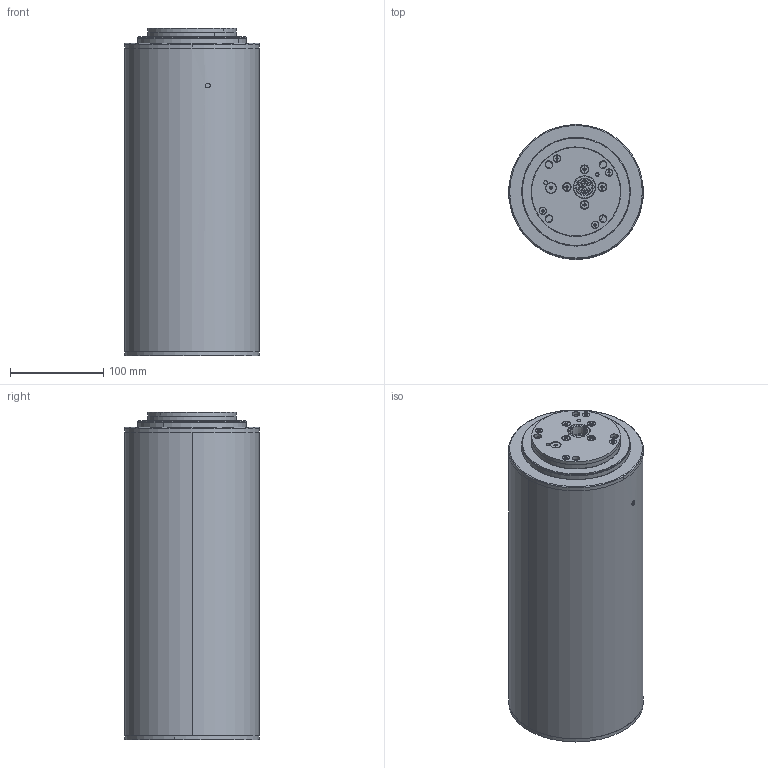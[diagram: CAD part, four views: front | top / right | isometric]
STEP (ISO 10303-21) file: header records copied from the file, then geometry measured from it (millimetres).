
FILE_DESCRIPTION (( 'STEP AP203' ), '1' );
FILE_NAME ('3D_TL56.STEP', '2024-10-18T08:56:47', ( '' ), ( '' ), 'SwSTEP 2.0', 'SolidWorks 2015', '' );
FILE_SCHEMA (( 'CONFIG_CONTROL_DESIGN' ));
Length unit declared in the file: inch
Products named in the file (2): 3D_TL56
Bounding box: 144 x 144 x 350 mm (x, y, z)
Volume: 2272563.3 mm3; surface area: 883164.5 mm2
Topology: 27 solids, 27 shells, 1924 faces, 4980 edges, 3165 vertices
Faces by surface type: cylinder 972, plane 545, cone 281, bspline 72, torus 54
Entity records: 99494 total; most frequent: CARTESIAN_POINT 53747, ORIENTED_EDGE 9938, DIRECTION 9234, EDGE_CURVE 4969, AXIS2_PLACEMENT_3D 3434, VERTEX_POINT 3165, LINE 2366, VECTOR 2366
